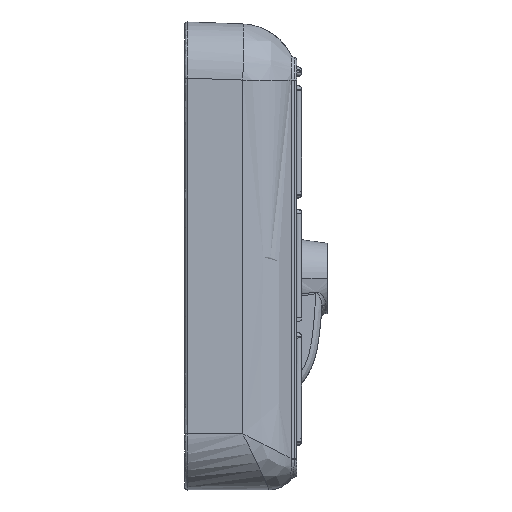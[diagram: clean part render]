
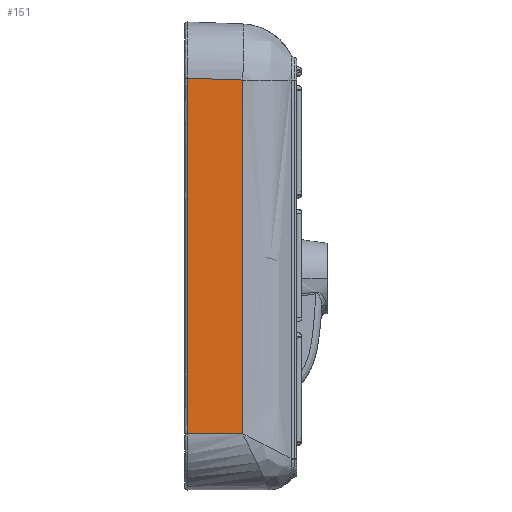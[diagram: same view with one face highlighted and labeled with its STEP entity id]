
A CAD part, left-side view. The second image highlights one B-rep face of the part: STEP entity #151.
In plain terms, the highlighted planar face has unit normal (-0.999, -0.035, 0).
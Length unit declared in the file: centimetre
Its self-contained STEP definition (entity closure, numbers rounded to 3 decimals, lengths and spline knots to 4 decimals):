
#151=ADVANCED_FACE('',(#661),#7600,.T.);
#661=FACE_OUTER_BOUND('',#1185,.T.);
#1185=EDGE_LOOP('',(#2207,#2208,#2209,#2210));
#2207=ORIENTED_EDGE('',*,*,#4107,.T.);
#2208=ORIENTED_EDGE('',*,*,#4108,.F.);
#2209=ORIENTED_EDGE('',*,*,#4109,.T.);
#2210=ORIENTED_EDGE('',*,*,#4110,.T.);
#4107=EDGE_CURVE('',#6590,#6576,#5801,.T.);
#4108=EDGE_CURVE('',#6575,#6576,#5802,.T.);
#4109=EDGE_CURVE('',#6575,#6589,#5803,.T.);
#4110=EDGE_CURVE('',#6589,#6590,#5804,.T.);
#5801=B_SPLINE_CURVE_WITH_KNOTS('',1,(#28921,#28922),.UNSPECIFIED.,.F.,
 .F.,(2,2),(0.,1.),.UNSPECIFIED.);
#5802=B_SPLINE_CURVE_WITH_KNOTS('',1,(#28923,#28924),.UNSPECIFIED.,.F.,
 .F.,(2,2),(-1.,0.),.UNSPECIFIED.);
#5803=B_SPLINE_CURVE_WITH_KNOTS('',1,(#28925,#28926),.UNSPECIFIED.,.F.,
 .F.,(2,2),(-1.,0.),.UNSPECIFIED.);
#5804=B_SPLINE_CURVE_WITH_KNOTS('',1,(#28927,#28928),.UNSPECIFIED.,.F.,
 .F.,(2,2),(0.,1.),.UNSPECIFIED.);
#6575=VERTEX_POINT('',#25721);
#6576=VERTEX_POINT('',#25722);
#6589=VERTEX_POINT('',#25735);
#6590=VERTEX_POINT('',#25736);
#7600=PLANE('',#7707);
#7707=AXIS2_PLACEMENT_3D('',#12240,#7748,$);
#7748=DIRECTION('',(-0.999,-0.035,0.));
#12240=CARTESIAN_POINT('',(-297.8313,-62.104,-166.01));
#25721=CARTESIAN_POINT('',(-297.8316,-62.094,211.8682));
#25722=CARTESIAN_POINT('',(-297.8316,-62.094,-166.));
#25735=CARTESIAN_POINT('',(-299.889,-3.1812,213.9255));
#25736=CARTESIAN_POINT('',(-299.889,-3.1806,-166.));
#28921=CARTESIAN_POINT('',(-299.889,-3.1806,-166.));
#28922=CARTESIAN_POINT('',(-297.8316,-62.094,-166.));
#28923=CARTESIAN_POINT('',(-297.8316,-62.094,211.8682));
#28924=CARTESIAN_POINT('',(-297.8316,-62.094,-166.));
#28925=CARTESIAN_POINT('',(-297.8316,-62.094,211.8682));
#28926=CARTESIAN_POINT('',(-299.889,-3.1812,213.9255));
#28927=CARTESIAN_POINT('',(-299.889,-3.1812,213.9255));
#28928=CARTESIAN_POINT('',(-299.889,-3.1806,-166.));
